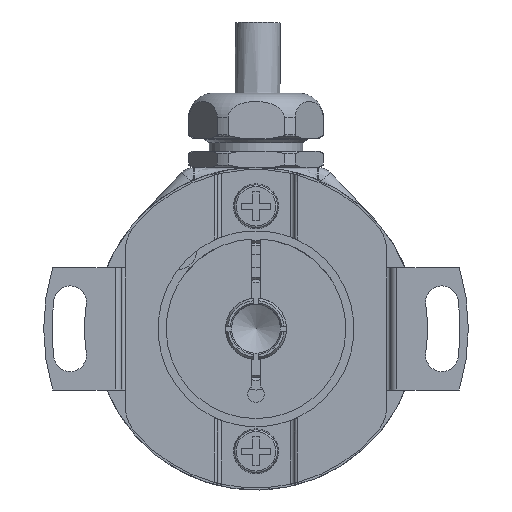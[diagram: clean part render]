
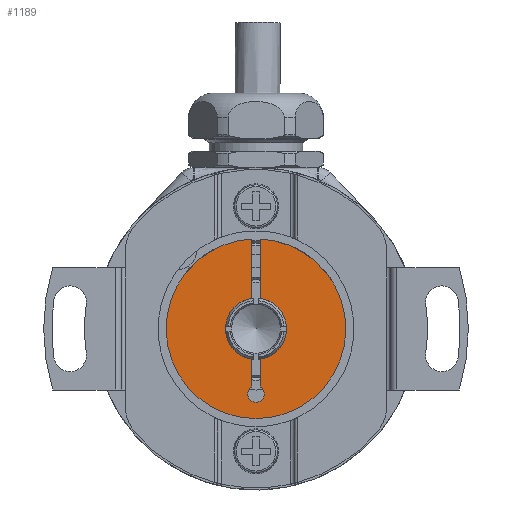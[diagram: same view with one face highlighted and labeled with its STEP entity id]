
A CAD part, left-side view. The second image highlights one B-rep face of the part: STEP entity #1189.
In plain terms, the highlighted planar face has unit normal (-1, 0, 0).
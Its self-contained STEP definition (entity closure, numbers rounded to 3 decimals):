
#1189 = ADVANCED_FACE( '', ( #2651 ), #2652, .T. );
#2651 = FACE_OUTER_BOUND( '', #4579, .T. );
#2652 = PLANE( '', #4580 );
#4579 = EDGE_LOOP( '', ( #8064, #8065, #8066, #8067, #8068, #8069, #8070, #8071 ) );
#4580 = AXIS2_PLACEMENT_3D( '', #8072, #8073, #8074 );
#8064 = ORIENTED_EDGE( '', *, *, #10680, .F. );
#8065 = ORIENTED_EDGE( '', *, *, #10391, .F. );
#8066 = ORIENTED_EDGE( '', *, *, #10076, .F. );
#8067 = ORIENTED_EDGE( '', *, *, #9548, .F. );
#8068 = ORIENTED_EDGE( '', *, *, #10645, .F. );
#8069 = ORIENTED_EDGE( '', *, *, #10681, .F. );
#8070 = ORIENTED_EDGE( '', *, *, #9806, .F. );
#8071 = ORIENTED_EDGE( '', *, *, #10296, .T. );
#8072 = CARTESIAN_POINT( '', ( -7.3, 0., 3.75 ) );
#8073 = DIRECTION( '', ( -1., 0., 0. ) );
#8074 = DIRECTION( '', ( 0., 0., 1. ) );
#9548 = EDGE_CURVE( '', #11034, #11035, #11036, .T. );
#9806 = EDGE_CURVE( '', #11470, #11457, #11472, .T. );
#10076 = EDGE_CURVE( '', #11035, #11891, #11897, .T. );
#10296 = EDGE_CURVE( '', #11470, #12218, #12221, .T. );
#10391 = EDGE_CURVE( '', #11891, #12360, #12361, .T. );
#10645 = EDGE_CURVE( '', #12683, #11034, #12685, .T. );
#10680 = EDGE_CURVE( '', #12360, #12218, #12722, .T. );
#10681 = EDGE_CURVE( '', #11457, #12683, #12723, .T. );
#11034 = VERTEX_POINT( '', #13158 );
#11035 = VERTEX_POINT( '', #13159 );
#11036 = CIRCLE( '', #13160, 1. );
#11457 = VERTEX_POINT( '', #13837 );
#11470 = VERTEX_POINT( '', #13857 );
#11472 = LINE( '', #13860, #13861 );
#11891 = VERTEX_POINT( '', #14670 );
#11897 = LINE( '', #14682, #14683 );
#12218 = VERTEX_POINT( '', #15219 );
#12221 = CIRCLE( '', #15223, 11. );
#12360 = VERTEX_POINT( '', #15670 );
#12361 = CIRCLE( '', #15671, 3.75 );
#12683 = VERTEX_POINT( '', #16158 );
#12685 = LINE( '', #16161, #16162 );
#12722 = LINE( '', #16233, #16234 );
#12723 = CIRCLE( '', #16235, 3.75 );
#13158 = CARTESIAN_POINT( '', ( -7.3, 0.5, -7.134 ) );
#13159 = CARTESIAN_POINT( '', ( -7.3, -0.5, -7.134 ) );
#13160 = AXIS2_PLACEMENT_3D( '', #16837, #16838, #16839 );
#13837 = CARTESIAN_POINT( '', ( -7.3, 0.5, 3.717 ) );
#13857 = CARTESIAN_POINT( '', ( -7.3, 0.5, 10.989 ) );
#13860 = CARTESIAN_POINT( '', ( -7.3, 0.5, 3.75 ) );
#13861 = VECTOR( '', #17195, 1000. );
#14670 = CARTESIAN_POINT( '', ( -7.3, -0.5, -3.717 ) );
#14682 = CARTESIAN_POINT( '', ( -7.3, -0.5, 3.75 ) );
#14683 = VECTOR( '', #17583, 1000. );
#15219 = CARTESIAN_POINT( '', ( -7.3, -0.5, 10.989 ) );
#15223 = AXIS2_PLACEMENT_3D( '', #17854, #17855, #17856 );
#15670 = CARTESIAN_POINT( '', ( -7.3, -0.5, 3.717 ) );
#15671 = AXIS2_PLACEMENT_3D( '', #17951, #17952, #17953 );
#16158 = CARTESIAN_POINT( '', ( -7.3, 0.5, -3.717 ) );
#16161 = CARTESIAN_POINT( '', ( -7.3, 0.5, 3.75 ) );
#16162 = VECTOR( '', #18219, 1000. );
#16233 = CARTESIAN_POINT( '', ( -7.3, -0.5, 3.75 ) );
#16234 = VECTOR( '', #18244, 1000. );
#16235 = AXIS2_PLACEMENT_3D( '', #18245, #18246, #18247 );
#16837 = CARTESIAN_POINT( '', ( -7.3, 0., -8. ) );
#16838 = DIRECTION( '', ( -1., 0., 0. ) );
#16839 = DIRECTION( '', ( 0., 0., 1. ) );
#17195 = DIRECTION( '', ( 0., 0., -1. ) );
#17583 = DIRECTION( '', ( 0., 0., 1. ) );
#17854 = CARTESIAN_POINT( '', ( -7.3, 0., 0. ) );
#17855 = DIRECTION( '', ( -1., 0., 0. ) );
#17856 = DIRECTION( '', ( 0., 0., 1. ) );
#17951 = CARTESIAN_POINT( '', ( -7.3, 0., 0. ) );
#17952 = DIRECTION( '', ( -1., 0., 0. ) );
#17953 = DIRECTION( '', ( 0., 0., 1. ) );
#18219 = DIRECTION( '', ( 0., 0., -1. ) );
#18244 = DIRECTION( '', ( 0., 0., 1. ) );
#18245 = CARTESIAN_POINT( '', ( -7.3, 0., 0. ) );
#18246 = DIRECTION( '', ( -1., 0., 0. ) );
#18247 = DIRECTION( '', ( 0., 0., 1. ) );
